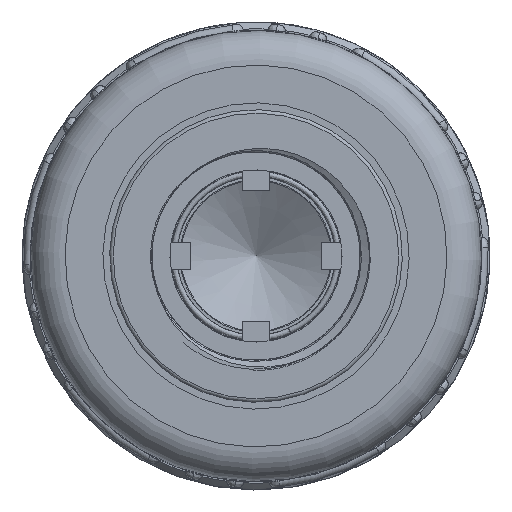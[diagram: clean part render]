
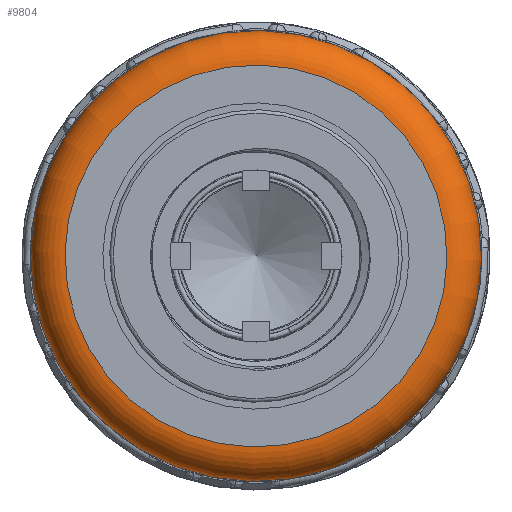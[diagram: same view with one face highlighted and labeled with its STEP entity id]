
A CAD part, front view. The second image highlights one B-rep face of the part: STEP entity #9804.
In plain terms, the highlighted toroidal (fillet/blend) face has major radius 27.75 mm and minor radius 5 mm.
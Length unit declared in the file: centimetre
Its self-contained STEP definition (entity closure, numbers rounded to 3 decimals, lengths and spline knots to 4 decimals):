
#1637=TOROIDAL_SURFACE('',#10595,2.775,0.5);
#1848=FACE_BOUND('',#2932,.T.);
#2335=FACE_OUTER_BOUND('',#2931,.T.);
#2931=EDGE_LOOP('',(#7961));
#2932=EDGE_LOOP('',(#7962));
#3492=CIRCLE('',#10593,2.775);
#3494=CIRCLE('',#10596,3.275);
#4293=VERTEX_POINT('',#66332);
#4295=VERTEX_POINT('',#66337);
#5589=EDGE_CURVE('',#4293,#4293,#3492,.T.);
#5591=EDGE_CURVE('',#4295,#4295,#3494,.T.);
#7961=ORIENTED_EDGE('',*,*,#5591,.F.);
#7962=ORIENTED_EDGE('',*,*,#5589,.T.);
#9804=ADVANCED_FACE('',(#2335,#1848),#1637,.T.);
#10593=AXIS2_PLACEMENT_3D('',#66333,#12541,#12542);
#10595=AXIS2_PLACEMENT_3D('',#66336,#12545,#12546);
#10596=AXIS2_PLACEMENT_3D('',#66338,#12547,#12548);
#12541=DIRECTION('center_axis',(0.,1.,0.));
#12542=DIRECTION('ref_axis',(-0.325,0.,0.946));
#12545=DIRECTION('center_axis',(0.,1.,0.));
#12546=DIRECTION('ref_axis',(-0.946,0.,-0.325));
#12547=DIRECTION('center_axis',(0.,1.,0.));
#12548=DIRECTION('ref_axis',(-0.325,0.,0.946));
#66332=CARTESIAN_POINT('',(0.9025,-3.95,-2.6241));
#66333=CARTESIAN_POINT('Origin',(0.,-3.95,0.));
#66336=CARTESIAN_POINT('Origin',(0.,-3.45,0.));
#66337=CARTESIAN_POINT('',(1.0651,-3.45,-3.097));
#66338=CARTESIAN_POINT('Origin',(0.,-3.45,0.));
